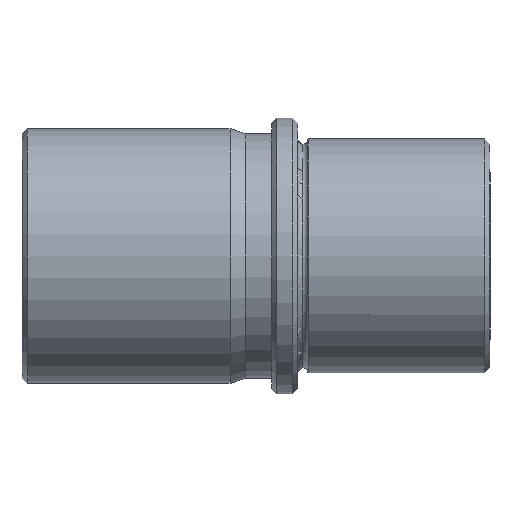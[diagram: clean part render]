
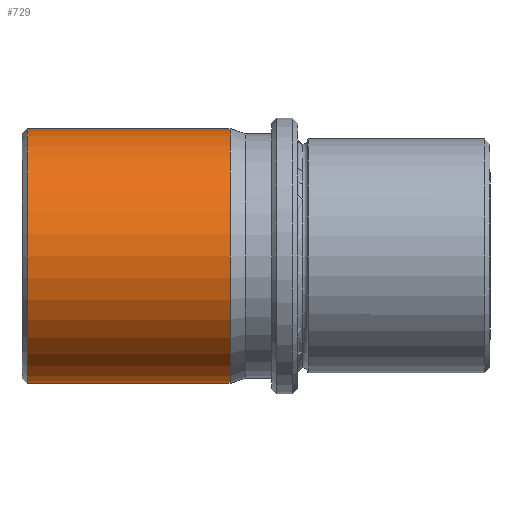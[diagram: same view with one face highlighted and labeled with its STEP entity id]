
A CAD part, left-side view. The second image highlights one B-rep face of the part: STEP entity #729.
In plain terms, the highlighted cylindrical face has radius 24.5 mm (diameter 49 mm), a partial arc.
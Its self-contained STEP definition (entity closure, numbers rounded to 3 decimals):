
#543=CARTESIAN_POINT('Vertex',(0.,50.,24.5)) ;
#550=CARTESIAN_POINT('Vertex',(0.,50.,-24.5)) ;
#579=CARTESIAN_POINT('Axis2P3D Location',(0.,50.,0.)) ;
#583=CARTESIAN_POINT('Vertex',(-24.5,50.,0.)) ;
#586=CARTESIAN_POINT('Axis2P3D Location',(0.,50.,0.)) ;
#669=CARTESIAN_POINT('Line Origine',(0.,0.,-24.5)) ;
#673=CARTESIAN_POINT('Vertex',(0.,89.,-24.5)) ;
#687=CARTESIAN_POINT('Vertex',(0.,89.,24.5)) ;
#690=CARTESIAN_POINT('Line Origine',(0.,0.,24.5)) ;
#704=CARTESIAN_POINT('Axis2P3D Location',(0.,0.,0.)) ;
#709=CARTESIAN_POINT('Axis2P3D Location',(0.,89.,0.)) ;
#713=CARTESIAN_POINT('Vertex',(-24.5,89.,0.)) ;
#716=CARTESIAN_POINT('Axis2P3D Location',(0.,89.,0.)) ;
#580=DIRECTION('Axis2P3D Direction',(-0.,1.,0.)) ;
#587=DIRECTION('Axis2P3D Direction',(-0.,1.,0.)) ;
#670=DIRECTION('Vector Direction',(0.,1.,0.)) ;
#691=DIRECTION('Vector Direction',(0.,1.,0.)) ;
#705=DIRECTION('Axis2P3D Direction',(0.,1.,0.)) ;
#706=DIRECTION('Axis2P3D XDirection',(0.,0.,-1.)) ;
#710=DIRECTION('Axis2P3D Direction',(0.,1.,0.)) ;
#717=DIRECTION('Axis2P3D Direction',(0.,1.,0.)) ;
#581=AXIS2_PLACEMENT_3D('Circle Axis2P3D',#579,#580,$) ;
#588=AXIS2_PLACEMENT_3D('Circle Axis2P3D',#586,#587,$) ;
#707=AXIS2_PLACEMENT_3D('Cylinder Axis2P3D',#704,#705,#706) ;
#711=AXIS2_PLACEMENT_3D('Circle Axis2P3D',#709,#710,$) ;
#718=AXIS2_PLACEMENT_3D('Circle Axis2P3D',#716,#717,$) ;
#722=ORIENTED_EDGE('',*,*,#694,.T.) ;
#723=ORIENTED_EDGE('',*,*,#715,.T.) ;
#724=ORIENTED_EDGE('',*,*,#720,.T.) ;
#725=ORIENTED_EDGE('',*,*,#675,.T.) ;
#726=ORIENTED_EDGE('',*,*,#590,.F.) ;
#727=ORIENTED_EDGE('',*,*,#585,.F.) ;
#671=VECTOR('Line Direction',#670,1.) ;
#692=VECTOR('Line Direction',#691,1.) ;
#729=ADVANCED_FACE('CF 450 30x90',(#728),#708,.T.) ;
#582=CIRCLE('generated circle',#581,24.5) ;
#589=CIRCLE('generated circle',#588,24.5) ;
#712=CIRCLE('generated circle',#711,24.5) ;
#719=CIRCLE('generated circle',#718,24.5) ;
#708=CYLINDRICAL_SURFACE('generated cylinder',#707,24.5) ;
#585=EDGE_CURVE('',#544,#584,#582,.F.) ;
#590=EDGE_CURVE('',#584,#551,#589,.F.) ;
#675=EDGE_CURVE('',#674,#551,#672,.F.) ;
#694=EDGE_CURVE('',#544,#688,#693,.T.) ;
#715=EDGE_CURVE('',#688,#714,#712,.F.) ;
#720=EDGE_CURVE('',#714,#674,#719,.F.) ;
#721=EDGE_LOOP('',(#722,#723,#724,#725,#726,#727)) ;
#728=FACE_OUTER_BOUND('',#721,.T.) ;
#672=LINE('Line',#669,#671) ;
#693=LINE('Line',#690,#692) ;
#544=VERTEX_POINT('',#543) ;
#551=VERTEX_POINT('',#550) ;
#584=VERTEX_POINT('',#583) ;
#674=VERTEX_POINT('',#673) ;
#688=VERTEX_POINT('',#687) ;
#714=VERTEX_POINT('',#713) ;
